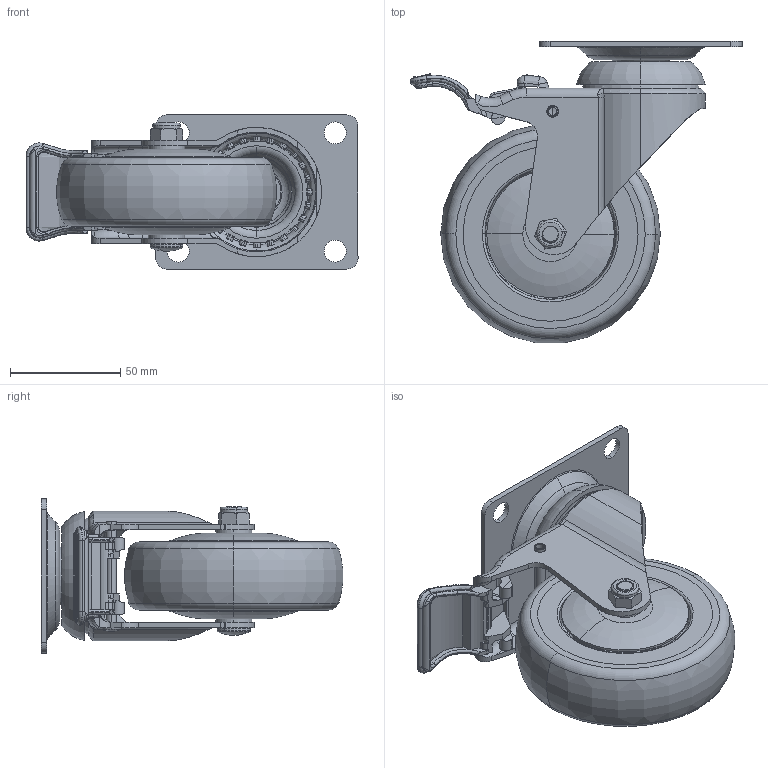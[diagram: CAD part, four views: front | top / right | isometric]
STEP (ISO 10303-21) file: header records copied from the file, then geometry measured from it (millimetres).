
FILE_DESCRIPTION (( 'STEP AP203' ), '1' );
FILE_NAME ('4111604004062-儀器白鐵活煞PPR輪(S).STEP', '2026-02-24T06:33:26', ( '' ), ( '' ), 'SwSTEP 2.0', 'SolidWorks 2019', '' );
FILE_SCHEMA (( 'CONFIG_CONTROL_DESIGN' ));
Length unit declared in the file: metre
Products named in the file (1): 4111604004062-儀器白鐵活煞PPR輪(S)
Bounding box: 150.86 x 137.15 x 70 mm (x, y, z)
Surface area: 87503.5 mm2 (no closed solid volume)
Topology: 0 solids, 19 shells, 619 faces, 1887 edges, 1271 vertices
Faces by surface type: plane 202, cylinder 185, bspline 105, torus 93, cone 18, sphere 16
Entity records: 30935 total; most frequent: CARTESIAN_POINT 15542, ORIENTED_EDGE 3225, DIRECTION 2883, EDGE_CURVE 1880, VERTEX_POINT 1271, AXIS2_PLACEMENT_3D 1053, LINE 777, VECTOR 777
